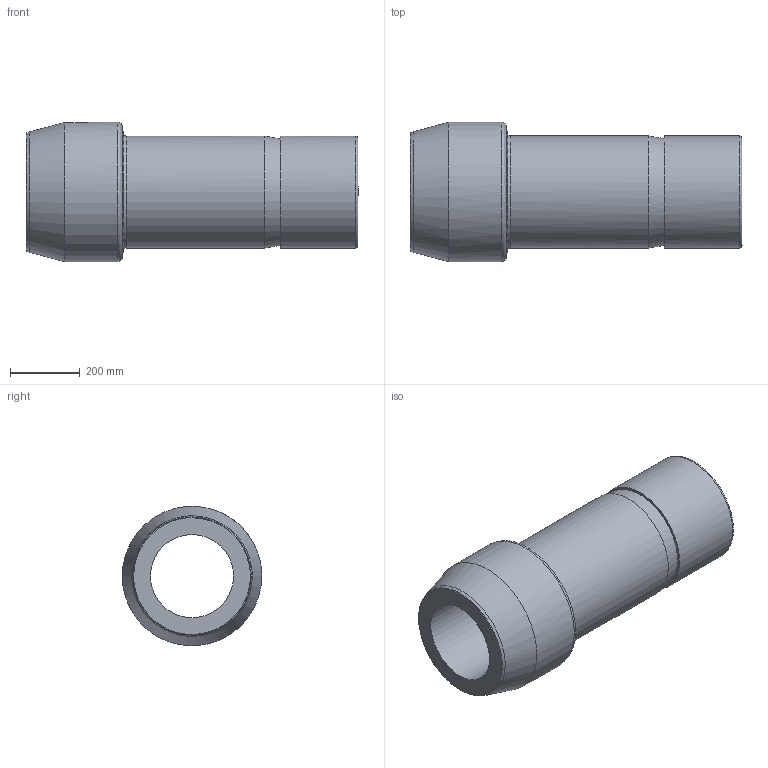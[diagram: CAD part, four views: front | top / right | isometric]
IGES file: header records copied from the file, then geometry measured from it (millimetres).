
Global section: file name: SPC-8; native system: Autodesk Inventor 2016; preprocessor: unknown; author: DESIGNPC2; date: 20151219.131600; units: millimetre
Bounding box: 955.04 x 401.32 x 400.76 mm (x, y, z)
Volume: 45515024 mm3; surface area: 1864682 mm2
Topology: 1 solids, 1 shells, 15 faces, 48 edges, 36 vertices
Faces by surface type: bspline 15
